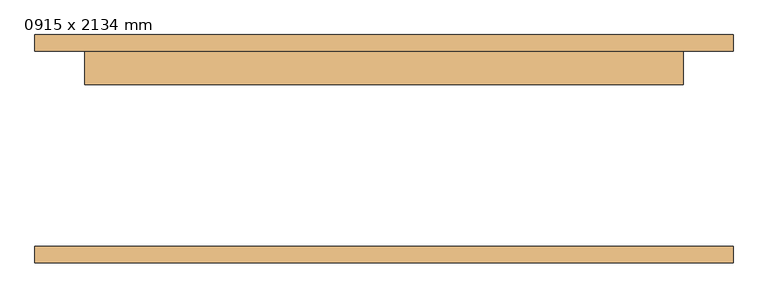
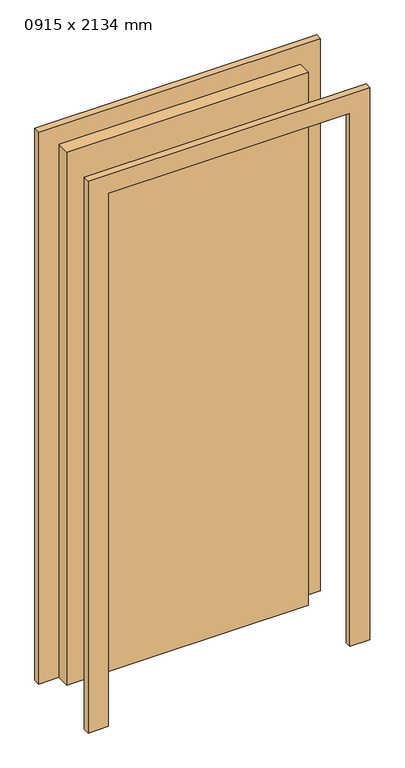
"""IFC4 building model written with IfcOpenShell, lengths in millimetres: door geometry, M_單個嵌平 : 0915 x 2134 mm."""

from ifc_helpers import new_model, si_unit, frame, origin, origin_with_axes, place, context, project, spatial, polyline, outline, extrude, source, transform, mapped, element, save


def door_0915_x_2134_mm_6ca60589(model_context):
    return source(origin(), model_context, "Body", "SweptSolid", [
        extrude(outline(polyline([(2210.0, -533.5), (0.0, -533.5), (0.0, -457.5), (2134.0, -457.5), (2134.0, 457.5), (0.0, 457.5), (0.0, 533.5), (2210.0, 533.5), (2210.0, -533.5)])), frame((0.0, 149.5, 0.0), z_axis=(0.0, 1.0, 0.0), x_axis=(0.0, 0.0, 1.0)), (0.0, 0.0, 1.0), 25.0),
        extrude(outline(polyline([(2210.0, 533.5), (2210.0, -533.5), (0.0, -533.5), (0.0, -457.5), (2134.0, -457.5), (2134.0, 457.5), (0.0, 457.5), (0.0, 533.5), (2210.0, 533.5)])), frame((0.0, -174.5, 0.0), z_axis=(0.0, 1.0, 0.0), x_axis=(0.0, 0.0, 1.0)), (0.0, 0.0, 1.0), 25.0),
        extrude(outline(polyline([(457.5, 98.5), (-457.5, 98.5), (-457.5, 149.5), (457.5, 149.5), (457.5, 98.5)])), origin_with_axes(), (0.0, 0.0, 1.0), 2134.0),
    ])


if __name__ == "__main__":
    model = new_model("IFC4")
    model_context = context("Model", 3, world=origin())
    ifc_project = project(units=[si_unit("LENGTHUNIT", "METRE", prefix="MILLI")], contexts=[model_context])
    site = spatial("IfcSite", under=ifc_project)
    building = spatial("IfcBuilding", under=site)
    placement = place(None, origin())
    door_0915_x_2134_mm_shape = door_0915_x_2134_mm_6ca60589(model_context)
    element("IfcDoor", 1, ObjectType="M_單個嵌平 : 0915 x 2134 mm", at=placement, inside=building, context=model_context, shape_type="MappedRepresentation", body=[
        mapped(door_0915_x_2134_mm_shape, transform((0.0, 0.0, 0.0), x_axis=(1.0, 0.0, 0.0), y_axis=(0.0, 1.0, 0.0), z_axis=(0.0, 0.0, 1.0))),
    ])
    save(model, "model.ifc")
